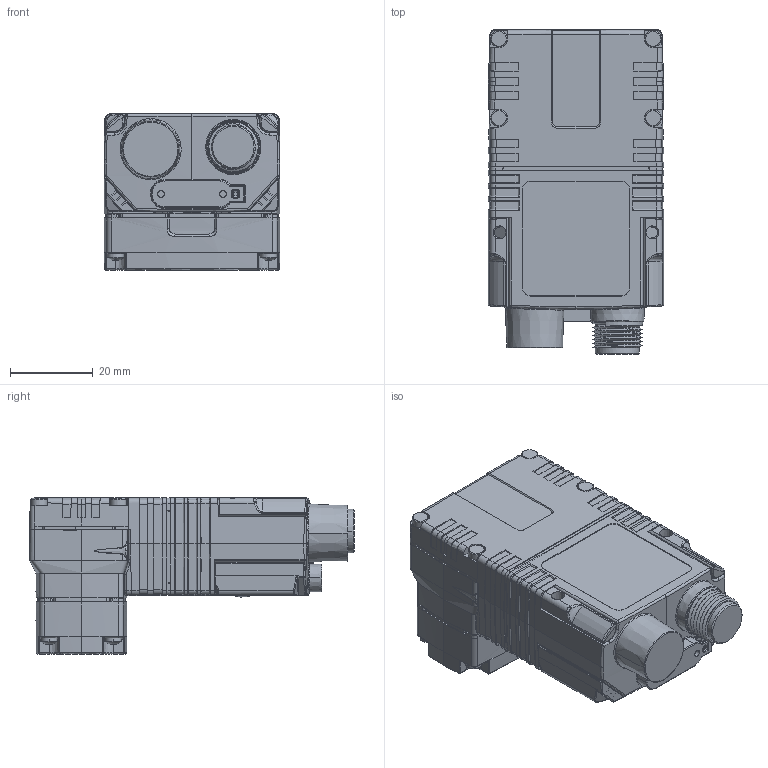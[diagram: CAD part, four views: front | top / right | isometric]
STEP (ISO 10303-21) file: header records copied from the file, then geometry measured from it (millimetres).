
FILE_DESCRIPTION (( 'STEP AP203' ), '1' );
FILE_NAME ('DM280_6,2mm_normalcover_angled.STEP', '2021-02-05T14:15:04', ( '' ), ( '' ), 'SwSTEP 2.0', 'SolidWorks 2019', '' );
FILE_SCHEMA (( 'CONFIG_CONTROL_DESIGN' ));
Length unit declared in the file: millimetre
Products named in the file (1): DM280_6,2mm_normalcover_angled
Bounding box: 42.4 x 78.52 x 37.75 mm (x, y, z)
Volume: 78930.4 mm3; surface area: 30582.7 mm2
Topology: 20 solids, 38 shells, 4224 faces, 10954 edges, 6850 vertices
Faces by surface type: plane 1646, cylinder 1182, bspline 715, cone 410, torus 183, sphere 88
Entity records: 163362 total; most frequent: CARTESIAN_POINT 68458, ORIENTED_EDGE 21724, DIRECTION 17650, EDGE_CURVE 10862, VERTEX_POINT 6846, AXIS2_PLACEMENT_3D 6149, VECTOR 5352, LINE 5352
